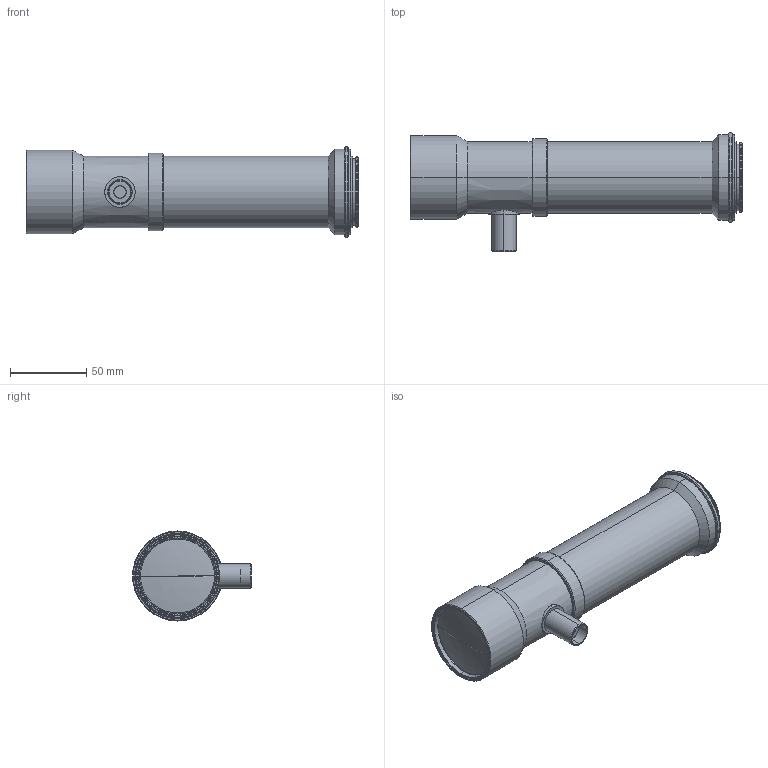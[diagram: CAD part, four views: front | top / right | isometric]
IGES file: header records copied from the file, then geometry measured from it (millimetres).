
Start section: SolidWorks IGES file using analytic representation for surfaces
Global section: file name: C:\Users\tsuji_vst\Documents\【作業フォルダ】\_3D\00 VST\VS-LTC\VS-LTC2-70CO_FSN.IGS; native system: SolidWorks 2017; preprocessor: SolidWorks 2017; author: tsuji_vst; date: 180515.115057; units: millimetre
Bounding box: 217.63 x 78 x 59 mm (x, y, z)
Surface area: 52575.9 mm2 (no closed solid volume)
Topology: 0 solids, 0 shells, 112 faces, 2722 edges, 2721 vertices
Faces by surface type: revolution 92, bspline 20
